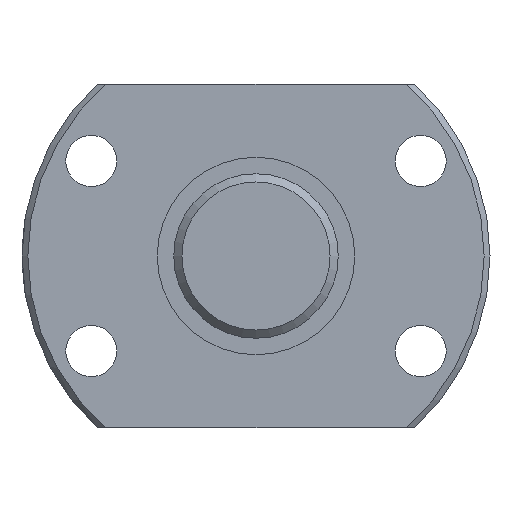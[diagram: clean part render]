
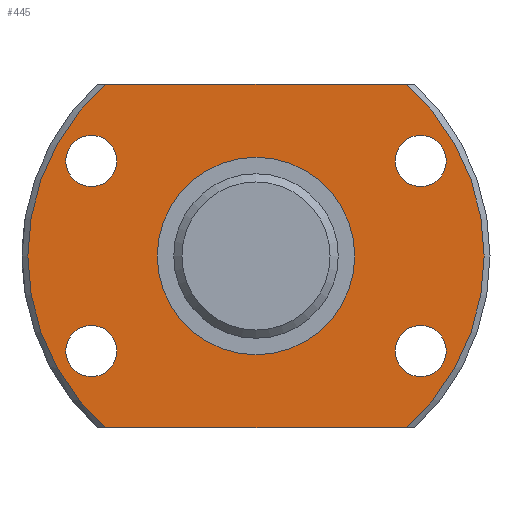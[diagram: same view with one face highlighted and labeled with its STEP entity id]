
A CAD part, left-side view. The second image highlights one B-rep face of the part: STEP entity #445.
In plain terms, the highlighted planar face has unit normal (-1, 0, 0).
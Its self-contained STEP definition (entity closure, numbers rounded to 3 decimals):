
#32=LINE('',#786,#40);
#33=LINE('',#790,#41);
#40=VECTOR('',#613,1000.);
#41=VECTOR('',#616,1000.);
#66=PLANE('',#515);
#102=ORIENTED_EDGE('',*,*,#196,.T.);
#103=ORIENTED_EDGE('',*,*,#197,.F.);
#104=ORIENTED_EDGE('',*,*,#198,.F.);
#105=ORIENTED_EDGE('',*,*,#199,.F.);
#106=ORIENTED_EDGE('',*,*,#186,.F.);
#107=ORIENTED_EDGE('',*,*,#200,.T.);
#108=ORIENTED_EDGE('',*,*,#201,.T.);
#109=ORIENTED_EDGE('',*,*,#202,.T.);
#110=ORIENTED_EDGE('',*,*,#203,.T.);
#186=EDGE_CURVE('',#234,#235,#273,.T.);
#196=EDGE_CURVE('',#244,#244,#278,.T.);
#197=EDGE_CURVE('',#245,#234,#32,.T.);
#198=EDGE_CURVE('',#246,#245,#279,.T.);
#199=EDGE_CURVE('',#235,#246,#33,.T.);
#200=EDGE_CURVE('',#247,#247,#280,.T.);
#201=EDGE_CURVE('',#248,#248,#281,.T.);
#202=EDGE_CURVE('',#249,#249,#282,.T.);
#203=EDGE_CURVE('',#250,#250,#283,.T.);
#234=VERTEX_POINT('',#738);
#235=VERTEX_POINT('',#740);
#244=VERTEX_POINT('',#785);
#245=VERTEX_POINT('',#787);
#246=VERTEX_POINT('',#789);
#247=VERTEX_POINT('',#792);
#248=VERTEX_POINT('',#794);
#249=VERTEX_POINT('',#796);
#250=VERTEX_POINT('',#798);
#273=CIRCLE('',#508,62.4);
#278=CIRCLE('',#516,27.);
#279=CIRCLE('',#517,62.4);
#280=CIRCLE('',#518,7.);
#281=CIRCLE('',#519,7.);
#282=CIRCLE('',#520,7.);
#283=CIRCLE('',#521,7.);
#314=EDGE_LOOP('',(#102));
#315=EDGE_LOOP('',(#103,#104,#105,#106));
#316=EDGE_LOOP('',(#107));
#317=EDGE_LOOP('',(#108));
#318=EDGE_LOOP('',(#109));
#319=EDGE_LOOP('',(#110));
#376=FACE_BOUND('',#314,.T.);
#377=FACE_BOUND('',#315,.T.);
#378=FACE_BOUND('',#316,.T.);
#379=FACE_BOUND('',#317,.T.);
#380=FACE_BOUND('',#318,.T.);
#381=FACE_BOUND('',#319,.T.);
#445=ADVANCED_FACE('',(#376,#377,#378,#379,#380,#381),#66,.T.);
#508=AXIS2_PLACEMENT_3D('',#739,#593,#594);
#515=AXIS2_PLACEMENT_3D('',#783,#609,#610);
#516=AXIS2_PLACEMENT_3D('',#784,#611,#612);
#517=AXIS2_PLACEMENT_3D('',#788,#614,#615);
#518=AXIS2_PLACEMENT_3D('',#791,#617,#618);
#519=AXIS2_PLACEMENT_3D('',#793,#619,#620);
#520=AXIS2_PLACEMENT_3D('',#795,#621,#622);
#521=AXIS2_PLACEMENT_3D('',#797,#623,#624);
#593=DIRECTION('',(1.,0.,0.));
#594=DIRECTION('',(0.,0.,-1.));
#609=DIRECTION('',(-1.,0.,0.));
#610=DIRECTION('',(0.,0.,1.));
#611=DIRECTION('',(1.,0.,0.));
#612=DIRECTION('',(0.,0.,-1.));
#613=DIRECTION('',(0.,-1.,0.));
#614=DIRECTION('',(1.,0.,0.));
#615=DIRECTION('',(0.,0.,-1.));
#616=DIRECTION('',(0.,1.,0.));
#617=DIRECTION('',(1.,0.,0.));
#618=DIRECTION('',(0.,0.,-1.));
#619=DIRECTION('',(1.,0.,0.));
#620=DIRECTION('',(0.,0.,-1.));
#621=DIRECTION('',(1.,0.,0.));
#622=DIRECTION('',(0.,0.,-1.));
#623=DIRECTION('',(1.,0.,0.));
#624=DIRECTION('',(0.,0.,-1.));
#738=CARTESIAN_POINT('',(0.,-41.046,47.));
#739=CARTESIAN_POINT('',(0.,0.,0.));
#740=CARTESIAN_POINT('',(0.,-41.046,-47.));
#783=CARTESIAN_POINT('',(0.,62.4,0.));
#784=CARTESIAN_POINT('',(0.,0.,0.));
#785=CARTESIAN_POINT('',(0.,0.,-27.));
#786=CARTESIAN_POINT('',(0.,64.1,47.));
#787=CARTESIAN_POINT('',(0.,41.046,47.));
#788=CARTESIAN_POINT('',(0.,0.,0.));
#789=CARTESIAN_POINT('',(0.,41.046,-47.));
#790=CARTESIAN_POINT('',(0.,-64.1,-47.));
#791=CARTESIAN_POINT('',(0.,-45.033,26.));
#792=CARTESIAN_POINT('',(0.,-45.033,19.));
#793=CARTESIAN_POINT('',(0.,-45.033,-26.));
#794=CARTESIAN_POINT('',(0.,-45.033,-33.));
#795=CARTESIAN_POINT('',(0.,45.033,-26.));
#796=CARTESIAN_POINT('',(0.,45.033,-33.));
#797=CARTESIAN_POINT('',(0.,45.033,26.));
#798=CARTESIAN_POINT('',(0.,45.033,19.));
